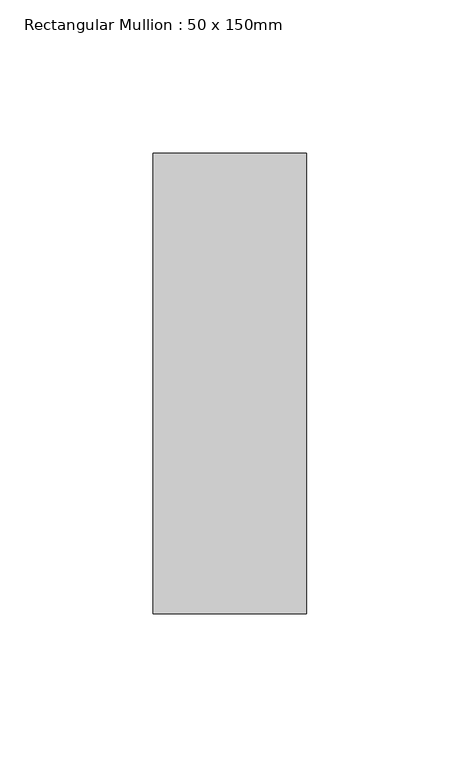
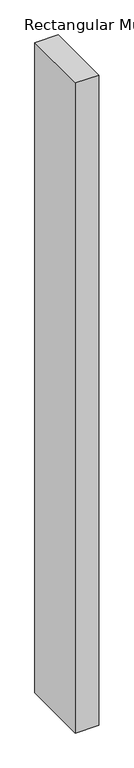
"""IFC4 building model written with IfcOpenShell, lengths in millimetres: member geometry, Rectangular Mullion : 50 x 150mm."""

from ifc_helpers import new_model, si_unit, frame, origin, place, context, project, spatial, polyline, outline, extrude, source, transform, mapped, element, save


def rectangular_mullion_50_x_150mm_6f1e2b5c(model_context):
    return source(origin(), model_context, "Body", "SweptSolid", [
        extrude(outline(polyline([(25.0, 75.0), (25.0, -75.0), (-25.0, -75.0), (-25.0, 75.0), (25.0, 75.0)])), frame((0.0, 0.0, -1473.5), z_axis=(0.0, 0.0, 1.0), x_axis=(1.0, 0.0, 0.0)), (0.0, 0.0, 1.0), 1473.5),
    ])


if __name__ == "__main__":
    model = new_model("IFC4")
    model_context = context("Model", 3, world=origin())
    ifc_project = project(units=[si_unit("LENGTHUNIT", "METRE", prefix="MILLI")], contexts=[model_context])
    site = spatial("IfcSite", under=ifc_project)
    building = spatial("IfcBuilding", under=site)
    placement = place(None, origin())
    rectangular_mullion_50_x_150mm_shape = rectangular_mullion_50_x_150mm_6f1e2b5c(model_context)
    element("IfcMember", 1, ObjectType="Rectangular Mullion : 50 x 150mm", at=placement, inside=building, context=model_context, shape_type="MappedRepresentation", body=[
        mapped(rectangular_mullion_50_x_150mm_shape, transform((0.0, 0.0, 0.0), x_axis=(1.0, 0.0, 0.0), y_axis=(0.0, 1.0, 0.0), z_axis=(0.0, 0.0, 1.0))),
    ])
    save(model, "model.ifc")
